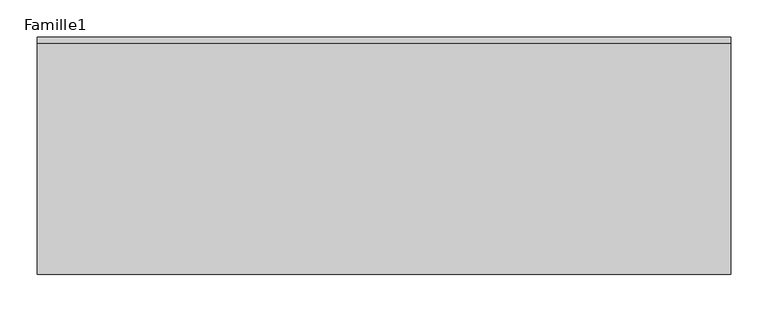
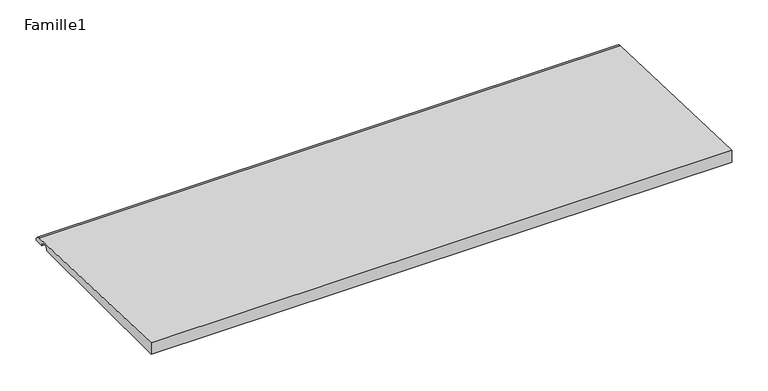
"""IFC4 building model written with IfcOpenShell, lengths in millimetres: proxy geometry, Famille1 : seuil."""

from ifc_helpers import new_model, si_unit, point, frame, frame_2d, origin, place, context, project, spatial, polyline, circle_curve, trimmed, segment, composite_curve, outline, extrude, source, transform, mapped, element, save


def famille1_a44e7e37(model_context):
    return source(origin(), model_context, "Body", "SweptSolid", [
        extrude(outline(composite_curve([segment(polyline([(0.9119711, 320.0), (310.7231275, 309.181156)]), True, "CONTINUOUS"), segment(trimmed(circle_curve(frame_2d((310.7231275, 300.2964416)), 8.8847144), [point((310.7231275, 309.181156))], [point((319.6078419, 300.2964416))], False, "CARTESIAN"), True, "CONTINUOUS"), segment(polyline([(319.6078419, 300.2964416), (303.8117852, 300.2964416)]), True, "CONTINUOUS"), segment(trimmed(circle_curve(frame_2d((296.7947851, 300.2964416)), 7.0170002), [point((303.8117852, 300.2964416))], [point((289.7840494, 300.0))], True, "CARTESIAN"), True, "CONTINUOUS"), segment(polyline([(289.7840494, 300.0), (0.9119711, 300.0), (0.9119711, 320.0)]), True, "CONTINUOUS")], self_intersect=False)), frame((0.0, 0.0, 0.0), z_axis=(1.0, 0.0, 0.0), x_axis=(0.0, 1.0, 0.0)), (0.0, 0.0, 1.0), 930.0),
    ])


if __name__ == "__main__":
    model = new_model("IFC4")
    model_context = context("Model", 3, world=origin())
    ifc_project = project(units=[si_unit("LENGTHUNIT", "METRE", prefix="MILLI")], contexts=[model_context])
    site = spatial("IfcSite", under=ifc_project)
    building = spatial("IfcBuilding", under=site)
    placement = place(None, origin())
    famille1_shape = famille1_a44e7e37(model_context)
    element("IfcBuildingElementProxy", 1, Name="Famille1 : seuil", ObjectType="Famille1 : seuil", at=placement, inside=building, context=model_context, shape_type="MappedRepresentation", body=[
        mapped(famille1_shape, transform((0.0, 0.0, 0.0), x_axis=(1.0, 0.0, 0.0), y_axis=(0.0, 1.0, 0.0), z_axis=(0.0, 0.0, 1.0))),
    ])
    save(model, "model.ifc")
